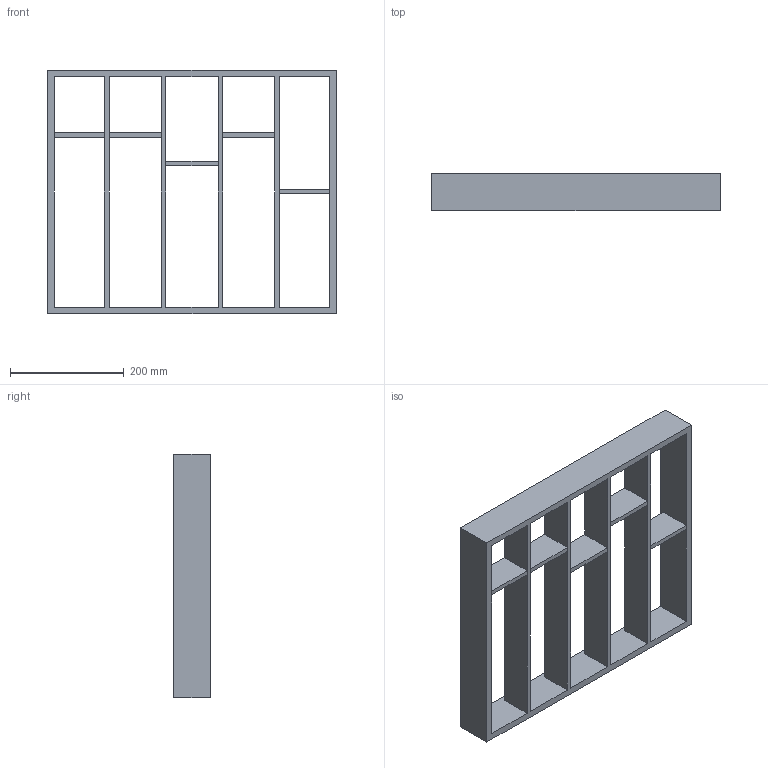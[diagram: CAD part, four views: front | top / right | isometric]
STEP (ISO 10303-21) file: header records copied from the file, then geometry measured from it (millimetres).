
FILE_DESCRIPTION (( 'STEP AP214' ), '1' );
FILE_NAME ('Vario Besteck NL450_B600_16 mm_Alu.step', '2010-11-04T08:33:19', ( 'grass' ), ( '' ), 'SwSTEP 2.0', 'SolidWorks 2010', '' );
FILE_SCHEMA (( 'AUTOMOTIVE_DESIGN' ));
Length unit declared in the file: millimetre
Products named in the file (1): Vario Besteck NL450_B600_16 mm_Alu
Bounding box: 508 x 65 x 429 mm (x, y, z)
Volume: 2369112 mm3; surface area: 551476 mm2
Topology: 6 solids, 6 shells, 52 faces, 132 edges, 88 vertices
Faces by surface type: plane 52
Entity records: 1635 total; most frequent: CARTESIAN_POINT 273, ORIENTED_EDGE 264, DIRECTION 238, LINE 132, VECTOR 132, EDGE_CURVE 132, VERTEX_POINT 88, EDGE_LOOP 58
